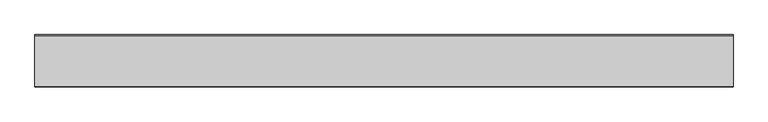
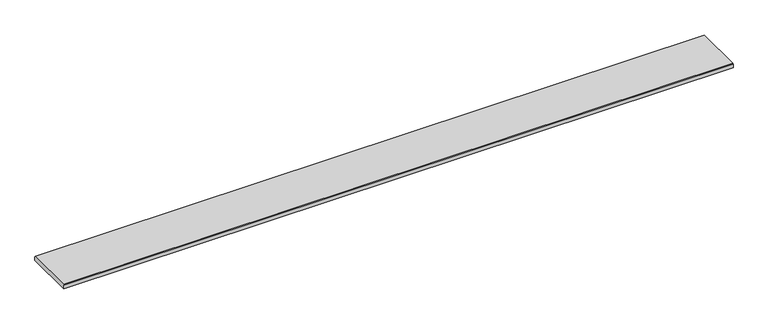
"""IFC4 building model written with IfcOpenShell, lengths in millimetres: proxy geometry."""

from ifc_helpers import new_model, si_unit, frame, origin, place, context, project, spatial, polyline, outline, extrude, source, transform, mapped, element, save


def generic_models_a3d56051(model_context):
    return source(origin(), model_context, "Body", "SweptSolid", [
        extrude(outline(polyline([(0.0, 13.629936), (2.245064, 15.875), (180.888936, 15.875), (183.134, 13.629936), (183.134, 0.0), (0.0, 0.0), (0.0, 13.629936)])), frame((0.0, 0.0, 0.0), z_axis=(1.0, 0.0, 0.0), x_axis=(0.0, 1.0, 0.0)), (0.0, 0.0, 1.0), 2438.4),
    ])


if __name__ == "__main__":
    model = new_model("IFC4")
    model_context = context("Model", 3, world=origin())
    ifc_project = project(units=[si_unit("LENGTHUNIT", "METRE", prefix="MILLI")], contexts=[model_context])
    site = spatial("IfcSite", under=ifc_project)
    building = spatial("IfcBuilding", under=site)
    placement = place(None, origin())
    generic_models_shape = generic_models_a3d56051(model_context)
    element("IfcBuildingElementProxy", 1, Name="440 Series Reversible Trim (Fiber) : 440 Series Reversible Trim (Fiber) - 7.21\"", ObjectType="440 Series Reversible Trim (Fiber) : 440 Series Reversible Trim (Fiber) - 7.21\"", at=placement, inside=building, context=model_context, shape_type="MappedRepresentation", body=[
        mapped(generic_models_shape, transform((0.0, 0.0, 0.0), x_axis=(1.0, 0.0, 0.0), y_axis=(0.0, 1.0, 0.0), z_axis=(0.0, 0.0, 1.0))),
    ])
    save(model, "model.ifc")
